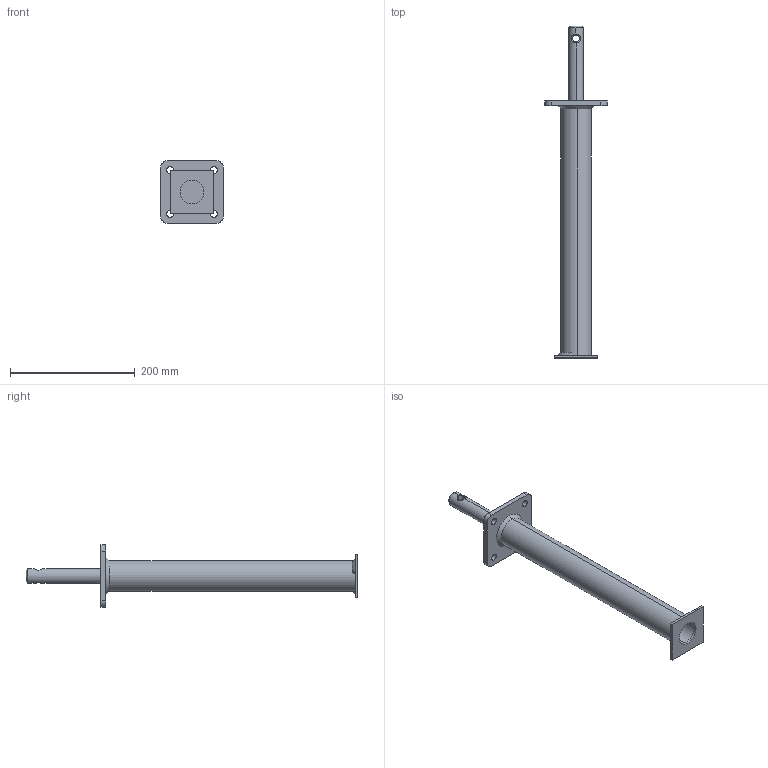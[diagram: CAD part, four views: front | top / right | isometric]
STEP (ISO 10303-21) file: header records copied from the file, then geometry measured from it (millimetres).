
FILE_DESCRIPTION (( 'STEP AP203' ), '1' );
FILE_NAME ('19820221.STEP', '2021-04-20T09:37:24', ( '' ), ( '' ), 'SwSTEP 2.0', 'SolidWorks 2013', '' );
FILE_SCHEMA (( 'CONFIG_CONTROL_DESIGN' ));
Length unit declared in the file: millimetre
Products named in the file (7): Schweissnaht-d48mm-O; Standrohr-48,3x400x3,25; 70x70x4; 100x100x8-4xd11-abgerundet; 24x120; 19820221; Schweissnaht-d48mm-25mm
Assembly tree (7 placements, depth 2):
  19820221
    70x70x4
    100x100x8-4xd11-abgerundet
    24x120
    Schweissnaht-d48mm-25mm  x2
    Schweissnaht-d48mm-O
    Standrohr-48,3x400x3,25
Bounding box: 100 x 532 x 100 mm (x, y, z)
Volume: 329963.6 mm3; surface area: 160603.2 mm2
Topology: 7 solids, 7 shells, 61 faces, 145 edges, 95 vertices
Faces by surface type: cylinder 26, plane 23, bspline 10, cone 2
Entity records: 5056 total; most frequent: CARTESIAN_POINT 3037, DIRECTION 260, ORIENTED_EDGE 260, EDGE_CURVE 130, AXIS2_PLACEMENT_3D 102, VERTEX_POINT 85, EDGE_LOOP 67, PERSON_AND_ORGANIZATION 63
